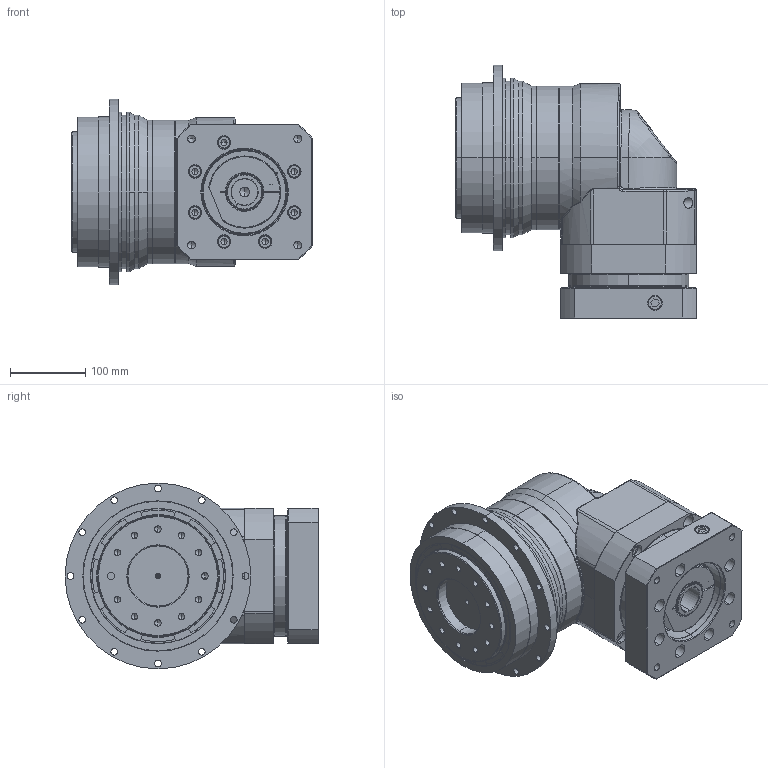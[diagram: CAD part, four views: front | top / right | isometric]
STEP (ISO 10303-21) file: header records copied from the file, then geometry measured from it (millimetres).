
FILE_DESCRIPTION (( 'STEP AP214' ), '1' );
FILE_NAME ('FADR200F-L1-35-114.3-200-M12-82.STEP', '2025-02-18T08:58:29', ( '微软用户' ), ( '微软中国' ), 'SwSTEP 2.0', 'SolidWorks 2021', '' );
FILE_SCHEMA (( 'AUTOMOTIVE_DESIGN' ));
Length unit declared in the file: millimetre
Products named in the file (6): 23-EVT200F眻褒眊极_igs.stp; EVT200D-L1-30-180-215-M12-87; 錨璃1; EVT200D-L1-35-114.3-200-M12-82; EVT200过度齿圈; FADR200F-L1-35-114.3-200-M12-82
Assembly tree (13 placements, depth 2):
  FADR200F-L1-35-114.3-200-M12-82
    EVT200D-L1-35-114.3-200-M12-82
    23-EVT200F眻褒眊极_igs.stp
    EVT200D-L1-30-180-215-M12-87  x9
    錨璃1
    EVT200过度齿圈
Bounding box: 320 x 337.5 x 247 mm (x, y, z)
Volume: 3846809 mm3; surface area: 1019227.7 mm2
Topology: 3 solids, 58 shells, 1945 faces, 4595 edges, 2821 vertices
Faces by surface type: cylinder 654, plane 518, cone 311, bspline 246, torus 113, sphere 103
Entity records: 86286 total; most frequent: CARTESIAN_POINT 30153, ORIENTED_EDGE 7876, DIRECTION 7319, EDGE_CURVE 3994, AXIS2_PLACEMENT_3D 3040, VERTEX_POINT 2491, EDGE_LOOP 1955, UNCERTAINTY_MEASURE_WITH_UNIT 1750
